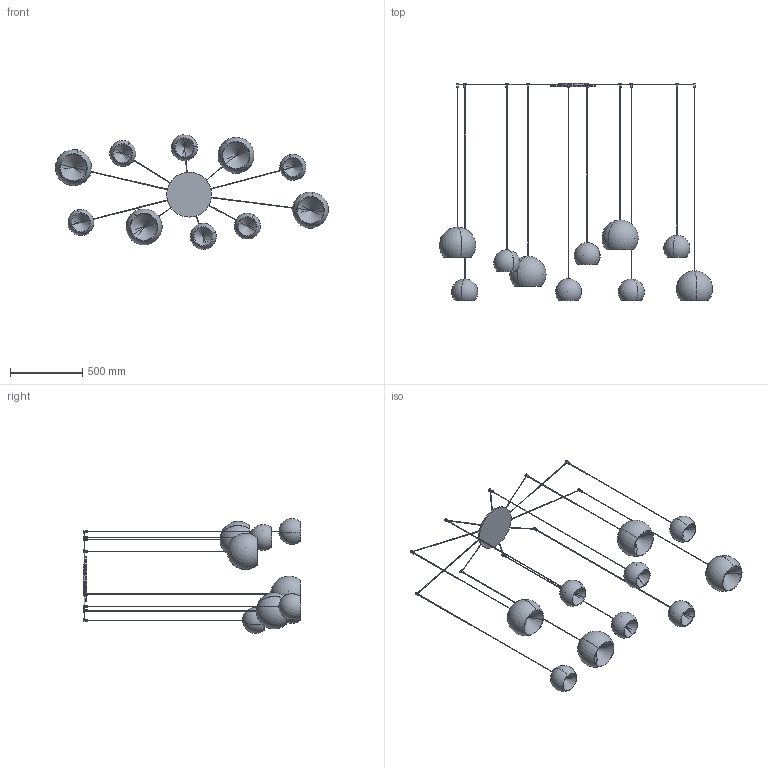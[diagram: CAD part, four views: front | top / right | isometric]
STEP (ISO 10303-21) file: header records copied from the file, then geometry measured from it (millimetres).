
FILE_DESCRIPTION (( 'STEP AP203' ), '1' );
FILE_NAME ('CRMA7-00-CHERRY MIX_10 sospensione.STEP', '2025-05-20T13:35:42', ( '' ), ( '' ), 'SwSTEP 2.0', 'SolidWorks 2022', '' );
FILE_SCHEMA (( 'CONFIG_CONTROL_DESIGN' ));
Length unit declared in the file: millimetre
Products named in the file (10): CHERRY_Lampada singola_Cherry 180 | H=1700; CHERRY_Lampada singola_Cherry 250 | H=1600; CRMA7-00-CHERRY MIX_10 sospensione; CHERRY_Lampada singola_Cherry 180 | H=1500; CHERRY_Lampada singola_Cherry 180 | H=1750; CHERRY_Lampada singola_Cherry 250 | H=1850; CHERRY_Rosone_Cherry 10 (x 3000)<A macchina>; CHERRY_Lampada singola_Cherry 250 | H=1800; CHERRY_Lampada singola_Cherry 180 | H=1800; CHERRY_Lampada singola_Cherry 250 | H=1500
Assembly tree (11 placements, depth 2):
  CRMA7-00-CHERRY MIX_10 sospensione
    CHERRY_Rosone_Cherry 10 (x 3000)<A macchina>
    CHERRY_Lampada singola_Cherry 250 | H=1800
    CHERRY_Lampada singola_Cherry 180 | H=1700
    CHERRY_Lampada singola_Cherry 180 | H=1500  x3
    CHERRY_Lampada singola_Cherry 250 | H=1850
    CHERRY_Lampada singola_Cherry 180 | H=1800
    CHERRY_Lampada singola_Cherry 250 | H=1500
    CHERRY_Lampada singola_Cherry 180 | H=1750
    CHERRY_Lampada singola_Cherry 250 | H=1600
Bounding box: 1884.83 x 1500 x 791.06 mm (x, y, z)
Volume: 4004666.6 mm3; surface area: 3267084.5 mm2
Topology: 51 solids, 51 shells, 375 faces, 892 edges, 560 vertices
Faces by surface type: cylinder 172, plane 123, sphere 40, cone 40
Entity records: 9722 total; most frequent: CARTESIAN_POINT 2053, DIRECTION 1514, ORIENTED_EDGE 1240, AXIS2_PLACEMENT_3D 673, EDGE_CURVE 620, VERTEX_POINT 412, CIRCLE 348, EDGE_LOOP 344
